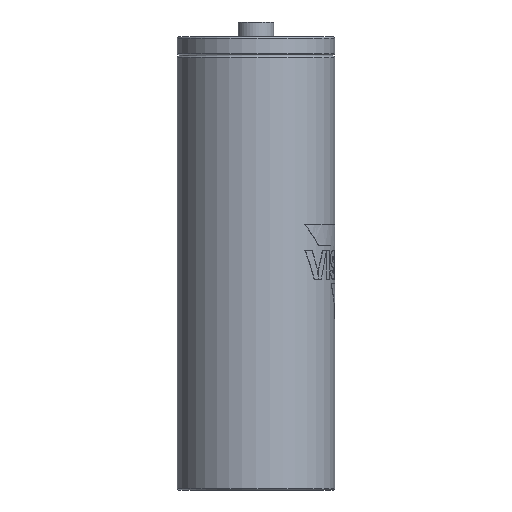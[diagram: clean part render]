
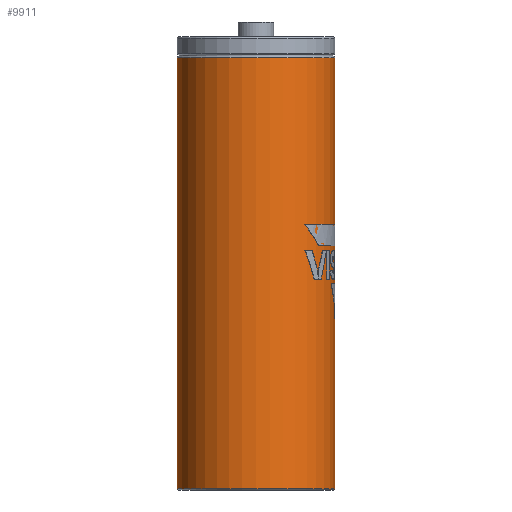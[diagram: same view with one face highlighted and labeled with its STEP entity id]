
A CAD part, left-side view. The second image highlights one B-rep face of the part: STEP entity #9911.
In plain terms, the highlighted cylindrical face has radius 38.2 mm (diameter 76.4 mm), a full revolution.
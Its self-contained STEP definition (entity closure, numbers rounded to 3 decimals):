
#9844 = TOROIDAL_SURFACE('',#9845,37.5,0.7);
#9845 = AXIS2_PLACEMENT_3D('',#9846,#9847,#9848);
#9846 = CARTESIAN_POINT('',(0.,0.,-218.4));
#9847 = DIRECTION('',(0.,0.,1.));
#9848 = DIRECTION('',(1.,0.,0.));
#9861 = VERTEX_POINT('',#9862);
#9862 = CARTESIAN_POINT('',(38.2,0.,-218.4));
#9884 = EDGE_CURVE('',#9861,#9861,#9885,.T.);
#9885 = SURFACE_CURVE('',#9886,(#9891,#9898),.PCURVE_S1.);
#9886 = CIRCLE('',#9887,38.2);
#9887 = AXIS2_PLACEMENT_3D('',#9888,#9889,#9890);
#9888 = CARTESIAN_POINT('',(0.,0.,-218.4));
#9889 = DIRECTION('',(-0.,0.,1.));
#9890 = DIRECTION('',(1.,0.,0.));
#9891 = PCURVE('',#9844,#9892);
#9892 = DEFINITIONAL_REPRESENTATION('',(#9893),#9897);
#9893 = LINE('',#9894,#9895);
#9894 = CARTESIAN_POINT('',(0.,6.283));
#9895 = VECTOR('',#9896,1.);
#9896 = DIRECTION('',(1.,0.));
#9897 = ( GEOMETRIC_REPRESENTATION_CONTEXT(2) 
PARAMETRIC_REPRESENTATION_CONTEXT() REPRESENTATION_CONTEXT('2D SPACE',''
  ) );
#9898 = PCURVE('',#9899,#9904);
#9899 = CYLINDRICAL_SURFACE('',#9900,38.2);
#9900 = AXIS2_PLACEMENT_3D('',#9901,#9902,#9903);
#9901 = CARTESIAN_POINT('',(0.,0.,-218.4));
#9902 = DIRECTION('',(0.,0.,1.));
#9903 = DIRECTION('',(1.,0.,0.));
#9904 = DEFINITIONAL_REPRESENTATION('',(#9905),#9909);
#9905 = LINE('',#9906,#9907);
#9906 = CARTESIAN_POINT('',(0.,0.));
#9907 = VECTOR('',#9908,1.);
#9908 = DIRECTION('',(1.,0.));
#9909 = ( GEOMETRIC_REPRESENTATION_CONTEXT(2) 
PARAMETRIC_REPRESENTATION_CONTEXT() REPRESENTATION_CONTEXT('2D SPACE',''
  ) );
#9911 = ADVANCED_FACE('',(#9912),#9899,.T.);
#9912 = FACE_BOUND('',#9913,.T.);
#9913 = EDGE_LOOP('',(#9914,#9915,#9938,#9965));
#9914 = ORIENTED_EDGE('',*,*,#9884,.T.);
#9915 = ORIENTED_EDGE('',*,*,#9916,.T.);
#9916 = EDGE_CURVE('',#9861,#9917,#9919,.T.);
#9917 = VERTEX_POINT('',#9918);
#9918 = CARTESIAN_POINT('',(38.2,0.,-9.4));
#9919 = SEAM_CURVE('',#9920,(#9924,#9931),.PCURVE_S1.);
#9920 = LINE('',#9921,#9922);
#9921 = CARTESIAN_POINT('',(38.2,0.,-218.4));
#9922 = VECTOR('',#9923,1.);
#9923 = DIRECTION('',(0.,0.,1.));
#9924 = PCURVE('',#9899,#9925);
#9925 = DEFINITIONAL_REPRESENTATION('',(#9926),#9930);
#9926 = LINE('',#9927,#9928);
#9927 = CARTESIAN_POINT('',(0.,0.));
#9928 = VECTOR('',#9929,1.);
#9929 = DIRECTION('',(0.,1.));
#9930 = ( GEOMETRIC_REPRESENTATION_CONTEXT(2) 
PARAMETRIC_REPRESENTATION_CONTEXT() REPRESENTATION_CONTEXT('2D SPACE',''
  ) );
#9931 = PCURVE('',#9899,#9932);
#9932 = DEFINITIONAL_REPRESENTATION('',(#9933),#9937);
#9933 = LINE('',#9934,#9935);
#9934 = CARTESIAN_POINT('',(6.283,0.));
#9935 = VECTOR('',#9936,1.);
#9936 = DIRECTION('',(0.,1.));
#9937 = ( GEOMETRIC_REPRESENTATION_CONTEXT(2) 
PARAMETRIC_REPRESENTATION_CONTEXT() REPRESENTATION_CONTEXT('2D SPACE',''
  ) );
#9938 = ORIENTED_EDGE('',*,*,#9939,.F.);
#9939 = EDGE_CURVE('',#9917,#9917,#9940,.T.);
#9940 = SURFACE_CURVE('',#9941,(#9946,#9953),.PCURVE_S1.);
#9941 = CIRCLE('',#9942,38.2);
#9942 = AXIS2_PLACEMENT_3D('',#9943,#9944,#9945);
#9943 = CARTESIAN_POINT('',(0.,0.,-9.4));
#9944 = DIRECTION('',(-0.,0.,1.));
#9945 = DIRECTION('',(1.,0.,0.));
#9946 = PCURVE('',#9899,#9947);
#9947 = DEFINITIONAL_REPRESENTATION('',(#9948),#9952);
#9948 = LINE('',#9949,#9950);
#9949 = CARTESIAN_POINT('',(0.,209.));
#9950 = VECTOR('',#9951,1.);
#9951 = DIRECTION('',(1.,0.));
#9952 = ( GEOMETRIC_REPRESENTATION_CONTEXT(2) 
PARAMETRIC_REPRESENTATION_CONTEXT() REPRESENTATION_CONTEXT('2D SPACE',''
  ) );
#9953 = PCURVE('',#9954,#9959);
#9954 = TOROIDAL_SURFACE('',#9955,37.5,0.7);
#9955 = AXIS2_PLACEMENT_3D('',#9956,#9957,#9958);
#9956 = CARTESIAN_POINT('',(0.,0.,-9.4));
#9957 = DIRECTION('',(0.,0.,1.));
#9958 = DIRECTION('',(1.,0.,0.));
#9959 = DEFINITIONAL_REPRESENTATION('',(#9960),#9964);
#9960 = LINE('',#9961,#9962);
#9961 = CARTESIAN_POINT('',(0.,0.));
#9962 = VECTOR('',#9963,1.);
#9963 = DIRECTION('',(1.,0.));
#9964 = ( GEOMETRIC_REPRESENTATION_CONTEXT(2) 
PARAMETRIC_REPRESENTATION_CONTEXT() REPRESENTATION_CONTEXT('2D SPACE',''
  ) );
#9965 = ORIENTED_EDGE('',*,*,#9916,.F.);
